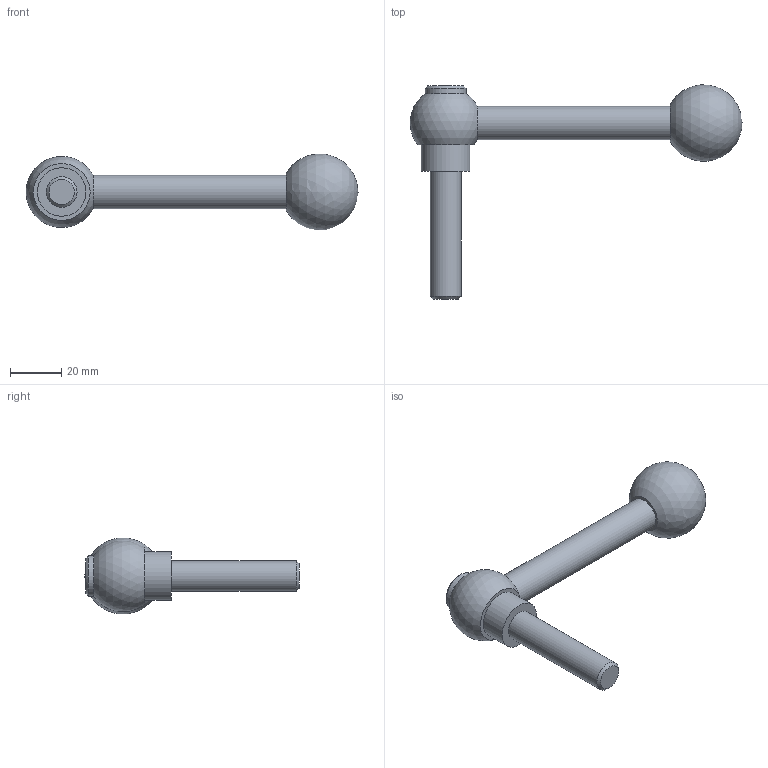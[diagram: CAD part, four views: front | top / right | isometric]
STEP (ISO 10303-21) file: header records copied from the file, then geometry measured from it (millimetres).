
FILE_DESCRIPTION( ( 'STEP AP203' ), '1' );
FILE_NAME( 'C:/Temp/Ganter_Step_05_03_2020/data/2_1/gn_6337_3/gn_6337_3_ms/gn_6337_3_ms_m/Adjustable clamping lever with bolt GN 6337.3-28-M12-50-M.stp', '2020-03-05T11:41:16', ( 'License CC BY-ND 4.0' ), ( 'CADENAS' ), ' ', 'PARTsolutions', ' ' );
FILE_SCHEMA( ( 'CONFIG_CONTROL_DESIGN' ) );
Length unit declared in the file: millimetre
Products named in the file (1): _Adjustable clamping lever with bolt GN 6337.3-28-M12-50-M
Bounding box: 129.99 x 83.93 x 29.7 mm (x, y, z)
Volume: 43150.9 mm3; surface area: 10583.6 mm2
Topology: 1 solids, 1 shells, 13 faces, 26 edges, 17 vertices
Faces by surface type: plane 5, cylinder 4, cone 2, sphere 2
Full cylindrical faces by diameter (mm): 12 x1, 13 x1, 15.969 x1, 19 x1
Entity records: 302 total; most frequent: DIRECTION 52, CARTESIAN_POINT 39, AXIS2_PLACEMENT_3D 26, EDGE_LOOP 24, ORIENTED_EDGE 24, FACE_OUTER_BOUND 18, ADVANCED_FACE 13, VERTEX_POINT 13
